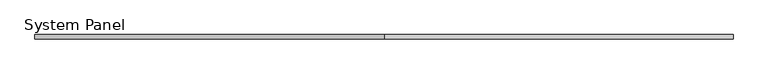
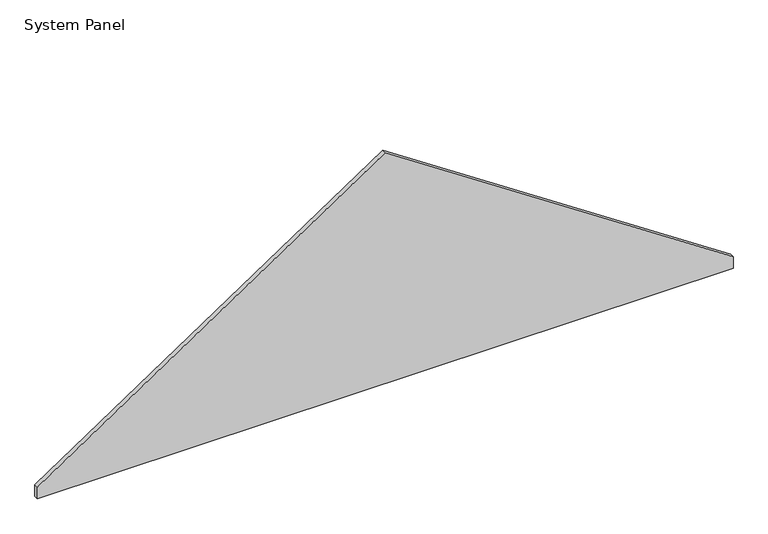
"""IFC4 building model written with IfcOpenShell, lengths in millimetres: plate geometry."""

from ifc_helpers import new_model, si_unit, frame, origin, place, context, project, spatial, polyline, outline, extrude, source, transform, mapped, element, save


def system_panel_e7fa9c7b(model_context):
    return source(origin(), model_context, "Body", "SweptSolid", [
        extrude(outline(polyline([(0.0, -3149.6), (0.0, 3149.6), (110.7604992, 3149.6), (2210.4938325, 0.0), (110.7604992, -3149.6), (0.0, -3149.6)])), frame((0.0, -19.05, 0.0), z_axis=(0.0, 1.0, 0.0), x_axis=(0.0, 0.0, 1.0)), (0.0, 0.0, 1.0), 38.1),
    ])


if __name__ == "__main__":
    model = new_model("IFC4")
    model_context = context("Model", 3, world=origin())
    ifc_project = project(units=[si_unit("LENGTHUNIT", "METRE", prefix="MILLI")], contexts=[model_context])
    site = spatial("IfcSite", under=ifc_project)
    building = spatial("IfcBuilding", under=site)
    placement = place(None, origin())
    system_panel_shape = system_panel_e7fa9c7b(model_context)
    element("IfcPlate", 1, ObjectType="System Panel : 1/2\" Plywood & 1\" Rigid Ins.", at=placement, inside=building, context=model_context, shape_type="MappedRepresentation", body=[
        mapped(system_panel_shape, transform((0.0, 0.0, 0.0), x_axis=(1.0, 0.0, 0.0), y_axis=(0.0, 1.0, 0.0), z_axis=(0.0, 0.0, 1.0))),
    ])
    save(model, "model.ifc")
